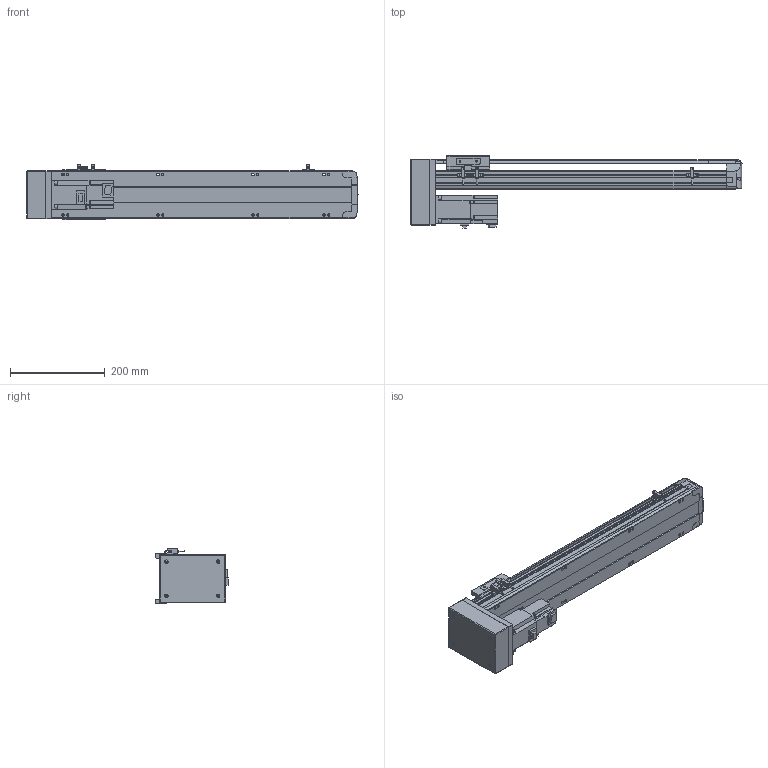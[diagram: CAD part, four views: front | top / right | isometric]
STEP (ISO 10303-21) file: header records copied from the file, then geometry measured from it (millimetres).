
FILE_DESCRIPTION( ( 'STEP AP214' ), '1' );
FILE_NAME( 'x:/temp/worker_27/temp/exporttempdir_6708_73_4NN7F/format_0/PSS120-L10-S450-BM-T40-C1-N(0).stp', '2022-06-06T00:26:33', ( 'License CC BY-ND 4.0' ), ( 'CADENAS' ), ' ', 'PARTsolutions', ' ' );
FILE_SCHEMA( ( 'AUTOMOTIVE_DESIGN { 1 0 10303 214 1 1 1 1 }' ) );
Length unit declared in the file: millimetre
Products named in the file (8): PSS120-L10-S450-BM-T40-C1-N(0); _PSS120-S450-BM-C1-N_body; _PSS120-N_Q; _PSS120-BM-C1-N_sl; _PSS120-N_sensor; _PSS120BM-N_h; _T40-p1; _PSS120-S450-BM-N_S
Assembly tree (9 placements, depth 2):
  PSS120-L10-S450-BM-T40-C1-N(0)
    _PSS120-S450-BM-C1-N_body
    _PSS120-N_Q
    _PSS120-BM-C1-N_sl
    _PSS120-N_sensor  x3
    _PSS120BM-N_h
    _T40-p1
    _PSS120-S450-BM-N_S
Bounding box: 699.35 x 151.8 x 117.7 mm (x, y, z)
Volume: 3210342.1 mm3; surface area: 520385.9 mm2
Topology: 9 solids, 9 shells, 809 faces, 2181 edges, 1448 vertices
Faces by surface type: plane 568, cylinder 221, cone 16, sphere 4
Full cylindrical faces by diameter (mm): 2.8 x3, 4 x4, 4.134 x12, 4.4 x2, 4.5 x4, 4.6 x3, 5 x6, 5.5 x15, 7 x2, 7.4 x4, 8 x4, 8.5 x12, 14 x1, 28 x1, 32 x2, 50 x1
Entity records: 27781 total; most frequent: CARTESIAN_POINT 4304, DIRECTION 3631, ORIENTED_EDGE 3574, EDGE_CURVE 1787, LINE 1285, VECTOR 1285, VERTEX_POINT 1238, AXIS2_PLACEMENT_3D 1173
